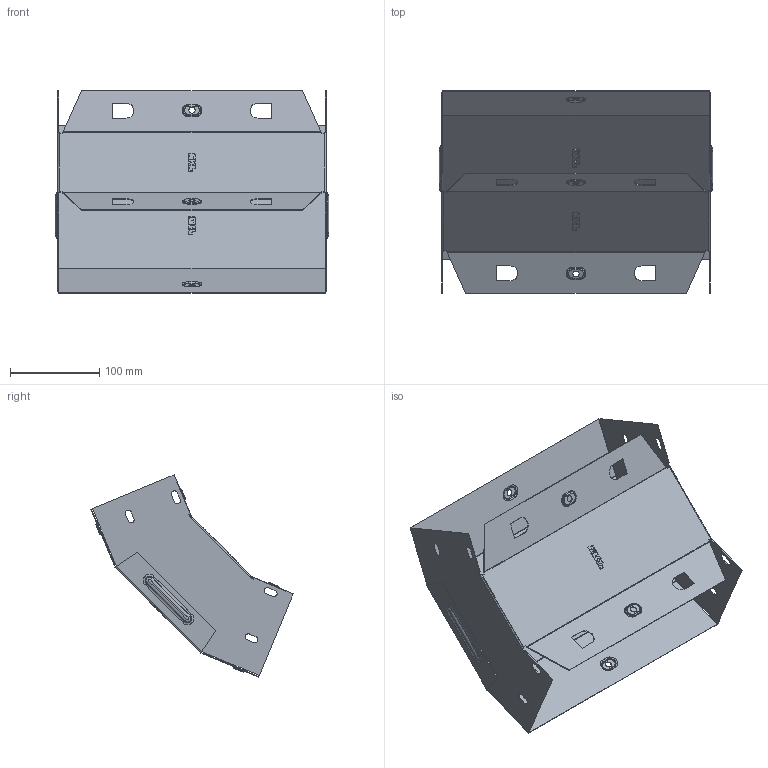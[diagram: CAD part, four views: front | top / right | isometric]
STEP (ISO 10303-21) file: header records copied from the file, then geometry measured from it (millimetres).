
FILE_DESCRIPTION (( 'STEP AP214' ), '1' );
FILE_NAME ('vo45100300_捘.STEP', '2019-06-10T08:17:15', ( '砐錪賧瘔蠈錪 Windows' ), ( '' ), 'SwSTEP 2.0', 'SolidWorks 2018', '' );
FILE_SCHEMA (( 'AUTOMOTIVE_DESIGN' ));
Length unit declared in the file: millimetre
Products named in the file (1): vo45100300_捘
Bounding box: 305.6 x 226.34 x 226.34 mm (x, y, z)
Volume: 151900.3 mm3; surface area: 382819.9 mm2
Topology: 2 solids, 2 shells, 472 faces, 1200 edges, 760 vertices
Faces by surface type: plane 254, cylinder 128, torus 64, bspline 26
Entity records: 15297 total; most frequent: CARTESIAN_POINT 3737, ORIENTED_EDGE 2400, DIRECTION 2362, EDGE_CURVE 1200, LINE 796, VECTOR 796, AXIS2_PLACEMENT_3D 783, VERTEX_POINT 760
